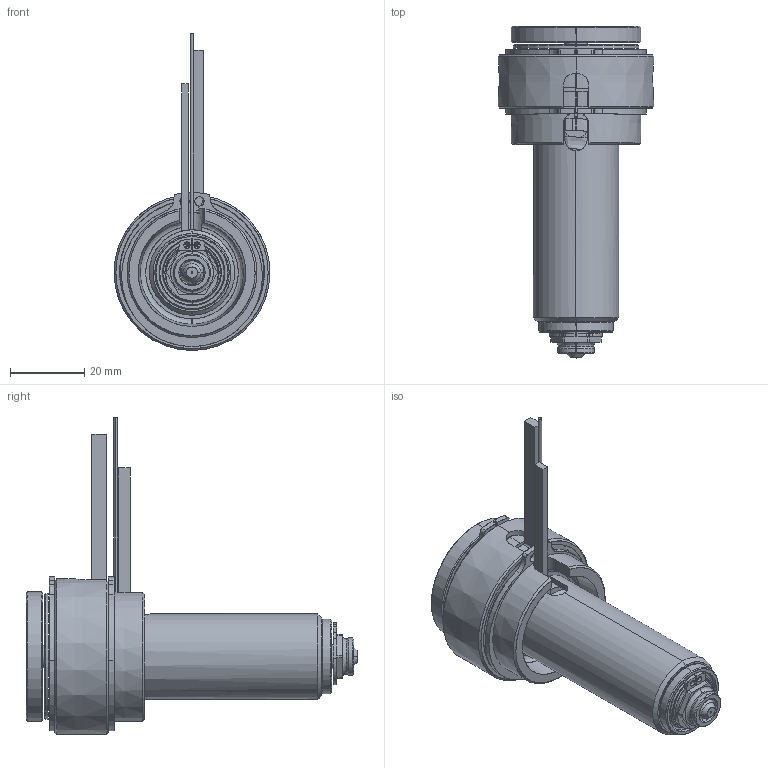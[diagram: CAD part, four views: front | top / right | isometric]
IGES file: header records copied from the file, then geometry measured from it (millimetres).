
Start section: SolidWorks IGES file using analytic representation for surfaces
Global section: file name: C:\Documents and Settings\ws-20\Desktop\TEM\UGER3551-S-A-0 [Øb-0.50  ØC-6.0].IGS; native system: SolidWorks 2012; preprocessor: SolidWorks 2012; author: ws-20; date: 120410.094126; units: millimetre
Bounding box: 42 x 89.4 x 85.4 mm (x, y, z)
Surface area: 31218.6 mm2 (no closed solid volume)
Topology: 0 solids, 0 shells, 209 faces, 3642 edges, 3642 vertices
Faces by surface type: revolution 134, bspline 75
